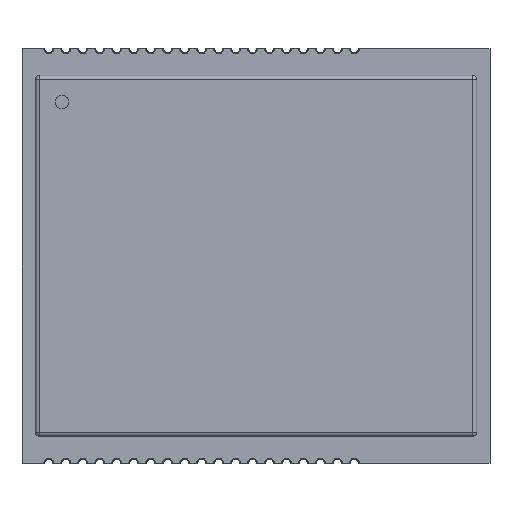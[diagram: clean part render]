
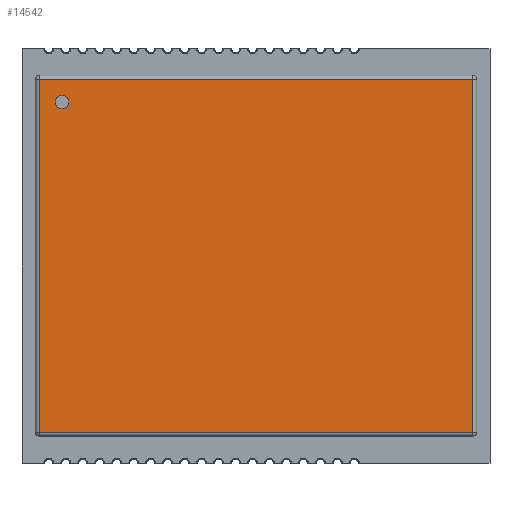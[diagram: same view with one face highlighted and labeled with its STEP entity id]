
A CAD part, top view. The second image highlights one B-rep face of the part: STEP entity #14542.
In plain terms, the highlighted planar face has unit normal (0, 0, 1).
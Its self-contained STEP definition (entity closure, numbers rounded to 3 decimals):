
#61=FACE_BOUND('',#1364,.T.);
#154=CIRCLE('',#15331,0.5);
#645=FACE_OUTER_BOUND('',#1363,.T.);
#1363=EDGE_LOOP('',(#11039,#11040,#11041,#11042));
#1364=EDGE_LOOP('',(#11043));
#2530=LINE('',#21294,#4475);
#2534=LINE('',#21310,#4479);
#2536=LINE('',#21313,#4481);
#2538=LINE('',#21316,#4483);
#4475=VECTOR('',#17234,10.);
#4479=VECTOR('',#17252,10.);
#4481=VECTOR('',#17256,10.);
#4483=VECTOR('',#17260,10.);
#6262=VERTEX_POINT('',#21264);
#6264=VERTEX_POINT('',#21269);
#6269=VERTEX_POINT('',#21282);
#6274=VERTEX_POINT('',#21298);
#6323=VERTEX_POINT('',#21419);
#7989=EDGE_CURVE('',#6262,#6269,#2530,.T.);
#7997=EDGE_CURVE('',#6269,#6274,#2534,.T.);
#7999=EDGE_CURVE('',#6274,#6264,#2536,.T.);
#8001=EDGE_CURVE('',#6264,#6262,#2538,.T.);
#8053=EDGE_CURVE('',#6323,#6323,#154,.T.);
#11039=ORIENTED_EDGE('',*,*,#7989,.F.);
#11040=ORIENTED_EDGE('',*,*,#8001,.F.);
#11041=ORIENTED_EDGE('',*,*,#7999,.F.);
#11042=ORIENTED_EDGE('',*,*,#7997,.F.);
#11043=ORIENTED_EDGE('',*,*,#8053,.F.);
#13939=PLANE('',#15330);
#14542=ADVANCED_FACE('',(#645,#61),#13939,.F.);
#15330=AXIS2_PLACEMENT_3D('',#21418,#17323,#17324);
#15331=AXIS2_PLACEMENT_3D('',#21420,#17325,#17326);
#17234=DIRECTION('',(-1.,0.,0.));
#17252=DIRECTION('',(0.,1.,0.));
#17256=DIRECTION('',(1.,0.,0.));
#17260=DIRECTION('',(0.,-1.,0.));
#17323=DIRECTION('center_axis',(0.,0.,-1.));
#17324=DIRECTION('ref_axis',(0.,1.,0.));
#17325=DIRECTION('center_axis',(0.,0.,1.));
#17326=DIRECTION('ref_axis',(0.,-1.,0.));
#21264=CARTESIAN_POINT('',(16.2,-13.2,4.1));
#21269=CARTESIAN_POINT('',(16.2,13.2,4.1));
#21282=CARTESIAN_POINT('',(-16.2,-13.2,4.1));
#21294=CARTESIAN_POINT('',(-8.25,-13.2,4.1));
#21298=CARTESIAN_POINT('',(-16.2,13.2,4.1));
#21310=CARTESIAN_POINT('',(-16.2,-6.75,4.1));
#21313=CARTESIAN_POINT('',(-8.25,13.2,4.1));
#21316=CARTESIAN_POINT('',(16.2,-6.75,4.1));
#21418=CARTESIAN_POINT('Origin',(0.,0.,
4.1));
#21419=CARTESIAN_POINT('',(-14.5,12.,4.1));
#21420=CARTESIAN_POINT('Origin',(-14.5,11.5,4.1));
